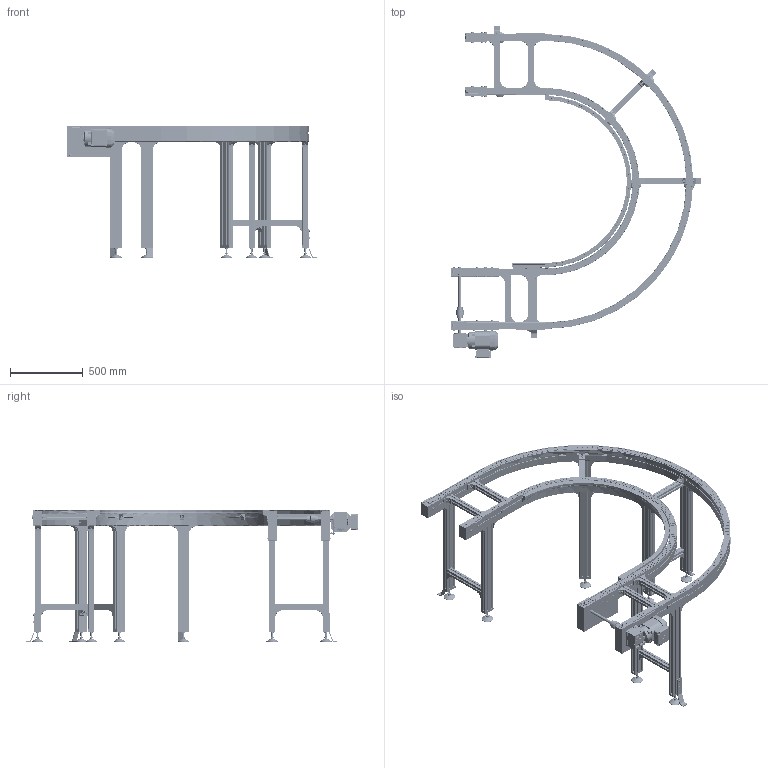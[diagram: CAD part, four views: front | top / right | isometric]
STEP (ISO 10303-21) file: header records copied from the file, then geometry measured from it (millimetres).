
FILE_DESCRIPTION(/* description */ (''),/* implementation_level */ '2;1');
FILE_NAME(/* name */ 'C:\Marketing\01_Versamove-SPU_STEP-Dateien-Homepage\VersamoveStandard\B400\STEP-Dateien\Flachplattenförderer_FPF-P-2045_Kurve180-rechts_B400.stp',/* time_stamp */ '2016-12-20T15:48:13+01:00',/* author */ ('herbert.engels'),/* organization */ (''),/* preprocessor_version */ 'ST-DEVELOPER v15.6',/* originating_system */ 'Autodesk Inventor 2015',/* authorisation */ '');
FILE_SCHEMA (('CONFIG_CONTROL_DESIGN'));
Length unit declared in the file: millimetre
Products named in the file (1): Flachplattenförderer_FPF-P-2045_Kurve180-rechts_B
400
Bounding box: 1721.28 x 2286.2 x 905.3 mm (x, y, z)
Volume: 46220955.1 mm3; surface area: 11256995.2 mm2
Topology: 5 solids, 5 shells, 10797 faces, 30650 edges, 19517 vertices
Faces by surface type: plane 7021, cylinder 2709, cone 612, torus 353, sphere 86, bspline 16
Full cylindrical faces by diameter (mm): 2 x8, 6 x14, 6.647 x12, 7.323 x4, 8 x137, 8.7 x4, 9 x32, 10 x10, 10.066 x1, 11 x6, 11.4 x24, 12 x16, 13 x132, 13.6 x8, 14 x90, 15 x16, 16 x16, 18 x4, 19 x4, 19.77 x4, 20 x17, 25 x1, 25.05 x4, 28 x1, 30 x2, 40 x2, 53 x1, 54 x2, 56 x3, 79 x8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
Entity records: 361163 total; most frequent: CARTESIAN_POINT 70466, ORIENTED_EDGE 58772, DIRECTION 57280, EDGE_CURVE 29344, LINE 19748, VECTOR 19748, VERTEX_POINT 19140, AXIS2_PLACEMENT_3D 18766
